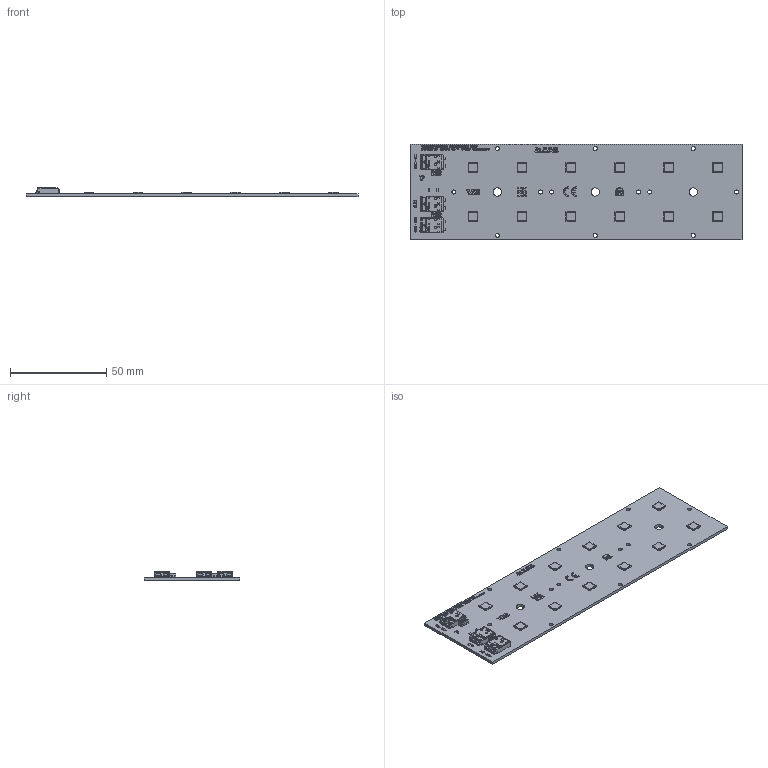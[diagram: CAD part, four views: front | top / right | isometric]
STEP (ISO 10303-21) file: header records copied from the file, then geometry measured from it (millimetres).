
FILE_DESCRIPTION(('Creo Elements/Direct Modeling STEP Export'),'2;1');
FILE_NAME('3D-Model_MSP SC 2R_Z15_5050 T_12.stp','2025-08-05T12:08:23',(''),(''),'PTC Creo Elements/Direct Modeling STEP processor for AP214 (Solid Model)','PTC Creo Elements/Direct Modeling 19.0E 27-Jun-2016 (C) Parametric Technology GmbH','');
FILE_SCHEMA(('AUTOMOTIVE_DESIGN { 1 0 10303 214 1 1 1 1 }'));
Length unit declared in the file: millimetre
Products named in the file (279): quilt.6; quilt.5; quilt.4; quilt.3; quilt.2; quilt.1; quilt.1.3; quilt.1.2; SMA__DO-214AC__PRT_1.PRT; SMA__DO-214AC__PRT_1.PRT.4; PLATE_WU-M-630-L-12-TW-1199480.PRT; PLATE_PRINT_WU-M-630-L-12-TW_99.PRT; PLATE_PRINT_WU-M-630-L-12-TW_98.PRT; PLATE_PRINT_WU-M-630-L-12-TW_97.PRT; PLATE_PRINT_WU-M-630-L-12-TW_96.PRT; PLATE_PRINT_WU-M-630-L-12-TW_95.PRT; PLATE_PRINT_WU-M-630-L-12-TW_94.PRT; PLATE_PRINT_WU-M-630-L-12-TW_93.PRT; PLATE_PRINT_WU-M-630-L-12-TW_92.PRT; PLATE_PRINT_WU-M-630-L-12-TW_91.PRT; PLATE_PRINT_WU-M-630-L-12-TW_90.PRT; PLATE_PRINT_WU-M-630-L-12-TW_9.PRT; PLATE_PRINT_WU-M-630-L-12-TW_89.PRT; PLATE_PRINT_WU-M-630-L-12-TW_88.PRT; PLATE_PRINT_WU-M-630-L-12-TW_87.PRT; PLATE_PRINT_WU-M-630-L-12-TW_86.PRT; PLATE_PRINT_WU-M-630-L-12-TW_85.PRT; PLATE_PRINT_WU-M-630-L-12-TW_84.PRT; PLATE_PRINT_WU-M-630-L-12-TW_83.PRT; PLATE_PRINT_WU-M-630-L-12-TW_82.PRT; PLATE_PRINT_WU-M-630-L-12-TW_81.PRT; PLATE_PRINT_WU-M-630-L-12-TW_80.PRT; PLATE_PRINT_WU-M-630-L-12-TW_8.PRT; PLATE_PRINT_WU-M-630-L-12-TW_79.PRT; PLATE_PRINT_WU-M-630-L-12-TW_78.PRT; PLATE_PRINT_WU-M-630-L-12-TW_77.PRT; PLATE_PRINT_WU-M-630-L-12-TW_76.PRT; PLATE_PRINT_WU-M-630-L-12-TW_75.PRT; PLATE_PRINT_WU-M-630-L-12-TW_74.PRT; PLATE_PRINT_WU-M-630-L-12-TW_73.PRT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
Assembly tree (146 placements, depth 2):
  quilt.6
    quilt.6
  quilt.5
    quilt.5
  quilt.4
    quilt.4
  quilt.3
    quilt.3
  quilt.2
    quilt.2
Bounding box: 172.2 x 49.5 x 4.95 mm (x, y, z)
Volume: 12932 mm3; surface area: 19914.7 mm2
Topology: 138 solids, 146 shells, 5214 faces, 13777 edges, 8956 vertices
Faces by surface type: plane 3468, cylinder 1136, bspline 287, extrusion 110, sphere 84, cone 81, torus 48
Entity records: 151821 total; most frequent: CARTESIAN_POINT 27009, ORIENTED_EDGE 18760, DIRECTION 17989, EDGE_CURVE 9405, VECTOR 7285, LINE 7230, VERTEX_POINT 6209, AXIS2_PLACEMENT_3D 5352
